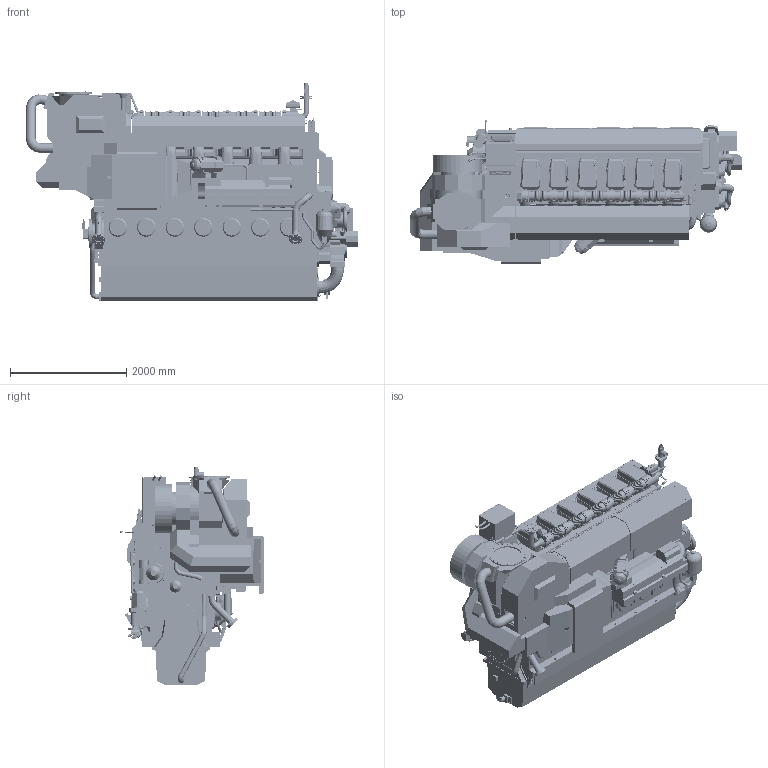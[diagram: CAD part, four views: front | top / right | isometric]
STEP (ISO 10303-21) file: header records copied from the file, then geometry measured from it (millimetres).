
FILE_DESCRIPTION(/* description */ (''),/* implementation_level */ '2;1');
FILE_NAME(/* name */ 'DAAF380548_A.stp',/* time_stamp */ '2021-11-09T13:41:14+02:00',/* author */ (''),/* organization */ (''),/* preprocessor_version */ 'ST-DEVELOPER v16.7',/* originating_system */ 'SIEMENS PLM Software NX 1915',/* authorisation */ '');
FILE_SCHEMA (('AUTOMOTIVE_DESIGN { 1 0 10303 214 3 1 1 1 }'));
Products named in the file (63): PABA065852_-; PAAF975946_-; PAAF975926_-; PABA066964_-; PABA089633_-; PAAF895909_-; PAAF906209_-; PAAF619118_-; PAAF694391_-; PAAF909496_-; PAAF619521_-; PAAF619539_-; PAAF895907_-; PAAF063769_-; PAAF078619_-; PAAF909498_-; PAAF906214_-; PAAF620935_-; PAAF616354_-; PAAF523155_-; PAAF555086_-; PAAF555085_-; PAAF497278_-; PAAF397145_-; PAAF291916_-; PAAF293701_-; PAAF271372_-; PAAF270351_-; PAAF261807_-; PAAF259772_-; PAAF247479_-; PAAF247485_-; PAAF243367_-; PAAF243503_-; PAAF243746_-; PAAF243671_-; PAAF243686_-; PAAF243622_-; PAAF243345_-; PAAF238216_-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
Assembly tree (91 placements, depth 2):
  PAAF643665_A
    PAAF063630_-
    PAAF078046_-
    PAAF074388_-
    PAAF078074_-
    PAAF078187_-
    PAAF078236_-
    PAAF078241_-
    PAAF093819_-
    PAAF087145_-
    PAAF093493_-
    PAAF068478_-
    PAAF068492_-
    PAAF074909_-
    PAAF159661_-
    PAAF087111_-
    PAAF087114_-
    PAAF090578_-
    PAAF087136_-
    PAAF087122_-
    PAAF093585_-
    PAAF087082_-
    PAAF064319_-
    PAAF238216_-
    PAAF243345_-
    PAAF243622_-
    PAAF243686_-
    PAAF243671_-
    PAAF243746_-
    PAAF243503_-  x11
    PAAF243367_-
    PAAF247485_-
    PAAF247479_-
    PAAF259772_-
    PAAF261807_-
    PAAF270351_-
    PAAF271372_-
    PAAF293701_-  x11
    PAAF291916_-
    PAAF397145_-
    PAAF497278_-
    PAAF555085_-
    PAAF555086_-
    PAAF523155_-
    PAAF616354_-
    PAAF620935_-
    PAAF906214_-
    PAAF909498_-
    PAAF078619_-
    PAAF063769_-
    PAAF895907_-
    PAAF619539_-
    PAAF619521_-
    PAAF909496_-
    PAAF694391_-
    PAAF619118_-
    PAAF906209_-
    PAAF895909_-
    PABA089633_-
    PABA066964_-
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Bounding box: 5707.35 x 2472.13 x 3747.5 mm (x, y, z)
Volume: 13602096220.8 mm3; surface area: 204996260.6 mm2
Topology: 202 solids, 209 shells, 10370 faces, 26279 edges, 16947 vertices
Faces by surface type: plane 6129, cylinder 2548, bspline 1280, torus 272, cone 79, extrusion 51, sphere 9, revolution 2
Full cylindrical faces by diameter (mm): 1 x6, 3 x3, 6 x8, 8 x28, 9.539 x2, 10 x24, 10.2 x18, 11 x3, 11.908 x1, 12 x6, 13.2 x4, 13.5 x4, 14 x2, 14.5 x1, 15 x12, 15.6 x4, 15.7 x4, 16 x4, 17 x10, 18 x97, 18.5 x2, 20 x1, 20.075 x1, 22 x53, 24 x1, 25 x1, 26 x3, 27 x2, 28 x3, 30 x11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
Entity records: 369709 total; most frequent: CARTESIAN_POINT 165476, ORIENTED_EDGE 40980, DIRECTION 39174, EDGE_CURVE 20490, VERTEX_POINT 13643, VECTOR 13322, LINE 13271, AXIS2_PLACEMENT_3D 12925
